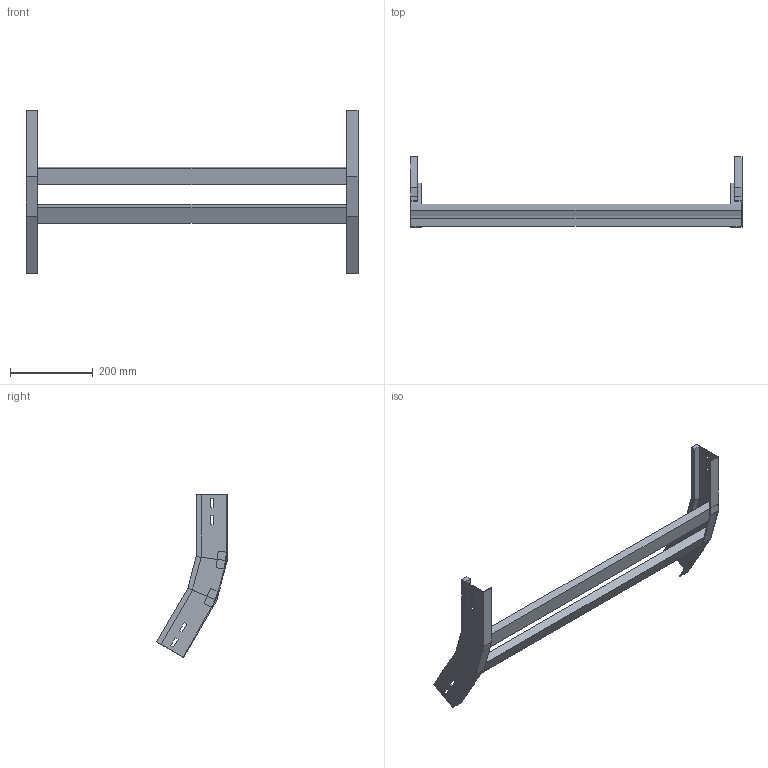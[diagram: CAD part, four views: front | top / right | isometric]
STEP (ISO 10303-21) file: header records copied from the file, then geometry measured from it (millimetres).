
FILE_DESCRIPTION (( 'STEP AP214' ), '1' );
FILE_NAME ('A2X32B3C800XX.step', '2025-03-20T10:01:46', ( '' ), ( '' ), 'SwSTEP 2.0', 'SolidWorks 2023', '' );
FILE_SCHEMA (( 'AUTOMOTIVE_DESIGN' ));
Length unit declared in the file: millimetre
Products named in the file (3): LONGH.SALITA_30°_H75_R300; TRAVERSINO_800; A2X32B3C800XX
Assembly tree (4 placements, depth 2):
  A2X32B3C800XX
    LONGH.SALITA_30°_H75_R300  x2
    TRAVERSINO_800  x2
Bounding box: 800 x 170.24 x 392.95 mm (x, y, z)
Volume: 1594602.7 mm3; surface area: 384597.9 mm2
Topology: 4 solids, 4 shells, 96 faces, 232 edges, 144 vertices
Faces by surface type: plane 96
Entity records: 1472 total; most frequent: CARTESIAN_POINT 243, ORIENTED_EDGE 232, DIRECTION 226, EDGE_CURVE 116, VECTOR 116, LINE 116, VERTEX_POINT 72, EDGE_LOOP 56
